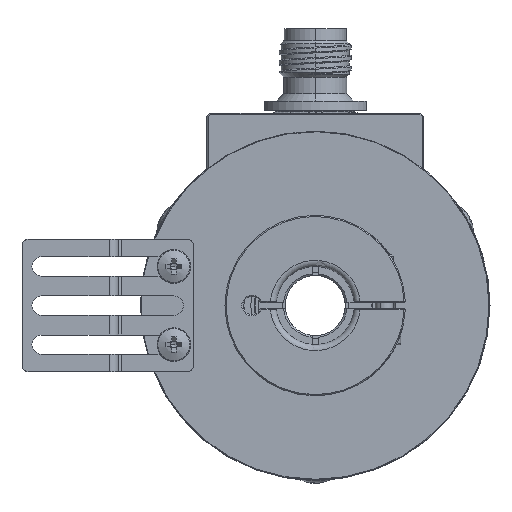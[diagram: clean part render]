
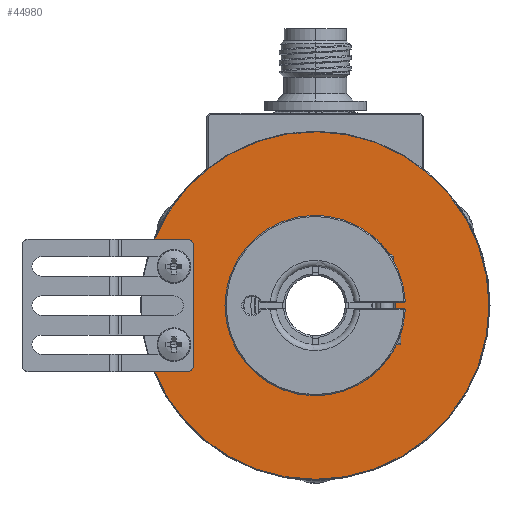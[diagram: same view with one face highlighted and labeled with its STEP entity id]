
A CAD part, front view. The second image highlights one B-rep face of the part: STEP entity #44980.
In plain terms, the highlighted planar face has unit normal (0, -1, 0).
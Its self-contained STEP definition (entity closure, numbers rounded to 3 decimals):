
#1337 = EDGE_LOOP ( 'NONE', ( #9321, #8918, #44624, #6274, #23905, #44258, #33472, #17313 ) ) ;
#1830 = CARTESIAN_POINT ( 'NONE',  ( -21.25, -7.5, -10. ) ) ;
#2038 = VERTEX_POINT ( 'NONE', #21243 ) ;
#4513 = LINE ( 'NONE', #25609, #25378 ) ;
#5703 = EDGE_CURVE ( 'NONE', #46092, #50242, #50732, .T. ) ;
#5844 = VECTOR ( 'NONE', #49761, 1000. ) ;
#6274 = ORIENTED_EDGE ( 'NONE', *, *, #12609, .T. ) ;
#6357 = CIRCLE ( 'NONE', #38538, 13.4 ) ;
#6569 = DIRECTION ( 'NONE',  ( 0., -1., 0. ) ) ;
#7014 = CARTESIAN_POINT ( 'NONE',  ( 0., -7.5, 0. ) ) ;
#8918 = ORIENTED_EDGE ( 'NONE', *, *, #55790, .T. ) ;
#9321 = ORIENTED_EDGE ( 'NONE', *, *, #5703, .F. ) ;
#10029 = VERTEX_POINT ( 'NONE', #44380 ) ;
#10218 = EDGE_CURVE ( 'NONE', #26673, #44227, #35526, .T. ) ;
#10911 = CARTESIAN_POINT ( 'NONE',  ( -26.725, -7.5, 11. ) ) ;
#12609 = EDGE_CURVE ( 'NONE', #2038, #30921, #57547, .T. ) ;
#13357 = CIRCLE ( 'NONE', #32081, 28.9 ) ;
#14968 = AXIS2_PLACEMENT_3D ( 'NONE', #55086, #39881, #34950 ) ;
#15201 = DIRECTION ( 'NONE',  ( 0., 0., 1. ) ) ;
#16044 = ORIENTED_EDGE ( 'NONE', *, *, #57544, .T. ) ;
#16775 = DIRECTION ( 'NONE',  ( -1., 0., 0. ) ) ;
#17015 = CIRCLE ( 'NONE', #14968, 1. ) ;
#17133 = DIRECTION ( 'NONE',  ( 0., -1., 0. ) ) ;
#17212 = CIRCLE ( 'NONE', #30734, 28.9 ) ;
#17313 = ORIENTED_EDGE ( 'NONE', *, *, #59758, .T. ) ;
#17450 = CARTESIAN_POINT ( 'NONE',  ( -21.25, -7.5, 11. ) ) ;
#18252 = VECTOR ( 'NONE', #51051, 1000. ) ;
#19136 = DIRECTION ( 'NONE',  ( -0.5, 0., -0.866 ) ) ;
#21196 = LINE ( 'NONE', #50735, #18252 ) ;
#21243 = CARTESIAN_POINT ( 'NONE',  ( -20.25, -7.5, -10. ) ) ;
#21684 = DIRECTION ( 'NONE',  ( 0., 1., 0. ) ) ;
#22686 = EDGE_CURVE ( 'NONE', #30921, #33301, #21196, .T. ) ;
#23316 = CARTESIAN_POINT ( 'NONE',  ( -14.45, -7.5, -25.028 ) ) ;
#23338 = DIRECTION ( 'NONE',  ( -0.5, 0., -0.866 ) ) ;
#23573 = CARTESIAN_POINT ( 'NONE',  ( 0., -7.5, 0. ) ) ;
#23624 = CARTESIAN_POINT ( 'NONE',  ( 0., -7.5, 0. ) ) ;
#23729 = FACE_BOUND ( 'NONE', #25400, .T. ) ;
#23905 = ORIENTED_EDGE ( 'NONE', *, *, #22686, .T. ) ;
#25378 = VECTOR ( 'NONE', #15201, 1000. ) ;
#25400 = EDGE_LOOP ( 'NONE', ( #16044, #38773 ) ) ;
#25609 = CARTESIAN_POINT ( 'NONE',  ( -20.25, -7.5, -11. ) ) ;
#26080 = DIRECTION ( 'NONE',  ( -0.5, 0., -0.866 ) ) ;
#26673 = VERTEX_POINT ( 'NONE', #23316 ) ;
#26741 = CARTESIAN_POINT ( 'NONE',  ( -6.7, -7.5, -11.605 ) ) ;
#27676 = AXIS2_PLACEMENT_3D ( 'NONE', #7014, #61256, #60630 ) ;
#28231 = PLANE ( 'NONE',  #32149 ) ;
#28942 = EDGE_CURVE ( 'NONE', #33301, #26673, #17212, .T. ) ;
#30734 = AXIS2_PLACEMENT_3D ( 'NONE', #58971, #6569, #26080 ) ;
#30921 = VERTEX_POINT ( 'NONE', #40616 ) ;
#32081 = AXIS2_PLACEMENT_3D ( 'NONE', #51573, #17133, #23338 ) ;
#32149 = AXIS2_PLACEMENT_3D ( 'NONE', #44183, #49005, #19136 ) ;
#33249 = DIRECTION ( 'NONE',  ( -0.5, 0., -0.866 ) ) ;
#33301 = VERTEX_POINT ( 'NONE', #50620 ) ;
#33303 = DIRECTION ( 'NONE',  ( 0., -1., 0. ) ) ;
#33472 = ORIENTED_EDGE ( 'NONE', *, *, #10218, .T. ) ;
#34950 = DIRECTION ( 'NONE',  ( -1., 0., 0. ) ) ;
#35526 = CIRCLE ( 'NONE', #51078, 28.9 ) ;
#37464 = CARTESIAN_POINT ( 'NONE',  ( 6.7, -7.5, 11.605 ) ) ;
#38099 = CIRCLE ( 'NONE', #27676, 13.4 ) ;
#38538 = AXIS2_PLACEMENT_3D ( 'NONE', #23573, #57952, #33249 ) ;
#38773 = ORIENTED_EDGE ( 'NONE', *, *, #53627, .T. ) ;
#39881 = DIRECTION ( 'NONE',  ( 0., 1., 0. ) ) ;
#40616 = CARTESIAN_POINT ( 'NONE',  ( -21.25, -7.5, -11. ) ) ;
#43419 = DIRECTION ( 'NONE',  ( -0.5, 0., -0.866 ) ) ;
#44107 = AXIS2_PLACEMENT_3D ( 'NONE', #1830, #21684, #16775 ) ;
#44183 = CARTESIAN_POINT ( 'NONE',  ( 25.115, -7.5, -14.5 ) ) ;
#44227 = VERTEX_POINT ( 'NONE', #47801 ) ;
#44258 = ORIENTED_EDGE ( 'NONE', *, *, #28942, .T. ) ;
#44380 = CARTESIAN_POINT ( 'NONE',  ( -20.25, -7.5, 10. ) ) ;
#44624 = ORIENTED_EDGE ( 'NONE', *, *, #48318, .F. ) ;
#44980 = ADVANCED_FACE ( 'NONE', ( #47428, #23729 ), #28231, .F. ) ;
#45738 = VERTEX_POINT ( 'NONE', #37464 ) ;
#46092 = VERTEX_POINT ( 'NONE', #17450 ) ;
#47428 = FACE_OUTER_BOUND ( 'NONE', #1337, .T. ) ;
#47801 = CARTESIAN_POINT ( 'NONE',  ( 14.45, -7.5, 25.028 ) ) ;
#48318 = EDGE_CURVE ( 'NONE', #2038, #10029, #4513, .T. ) ;
#49005 = DIRECTION ( 'NONE',  ( 0., 1., 0. ) ) ;
#49761 = DIRECTION ( 'NONE',  ( -1., 0., 0. ) ) ;
#50242 = VERTEX_POINT ( 'NONE', #10911 ) ;
#50620 = CARTESIAN_POINT ( 'NONE',  ( -26.725, -7.5, -11. ) ) ;
#50732 = LINE ( 'NONE', #64045, #5844 ) ;
#50735 = CARTESIAN_POINT ( 'NONE',  ( -32.25, -7.5, -11. ) ) ;
#51051 = DIRECTION ( 'NONE',  ( -1., 0., 0. ) ) ;
#51078 = AXIS2_PLACEMENT_3D ( 'NONE', #23624, #33303, #43419 ) ;
#51573 = CARTESIAN_POINT ( 'NONE',  ( 0., -7.5, 0. ) ) ;
#53627 = EDGE_CURVE ( 'NONE', #56159, #45738, #6357, .T. ) ;
#55086 = CARTESIAN_POINT ( 'NONE',  ( -21.25, -7.5, 10. ) ) ;
#55790 = EDGE_CURVE ( 'NONE', #46092, #10029, #17015, .T. ) ;
#56159 = VERTEX_POINT ( 'NONE', #26741 ) ;
#57544 = EDGE_CURVE ( 'NONE', #45738, #56159, #38099, .T. ) ;
#57547 = CIRCLE ( 'NONE', #44107, 1. ) ;
#57952 = DIRECTION ( 'NONE',  ( 0., 1., 0. ) ) ;
#58971 = CARTESIAN_POINT ( 'NONE',  ( 0., -7.5, 0. ) ) ;
#59758 = EDGE_CURVE ( 'NONE', #44227, #50242, #13357, .T. ) ;
#60630 = DIRECTION ( 'NONE',  ( -0.5, 0., -0.866 ) ) ;
#61256 = DIRECTION ( 'NONE',  ( 0., 1., 0. ) ) ;
#64045 = CARTESIAN_POINT ( 'NONE',  ( -32.25, -7.5, 11. ) ) ;
